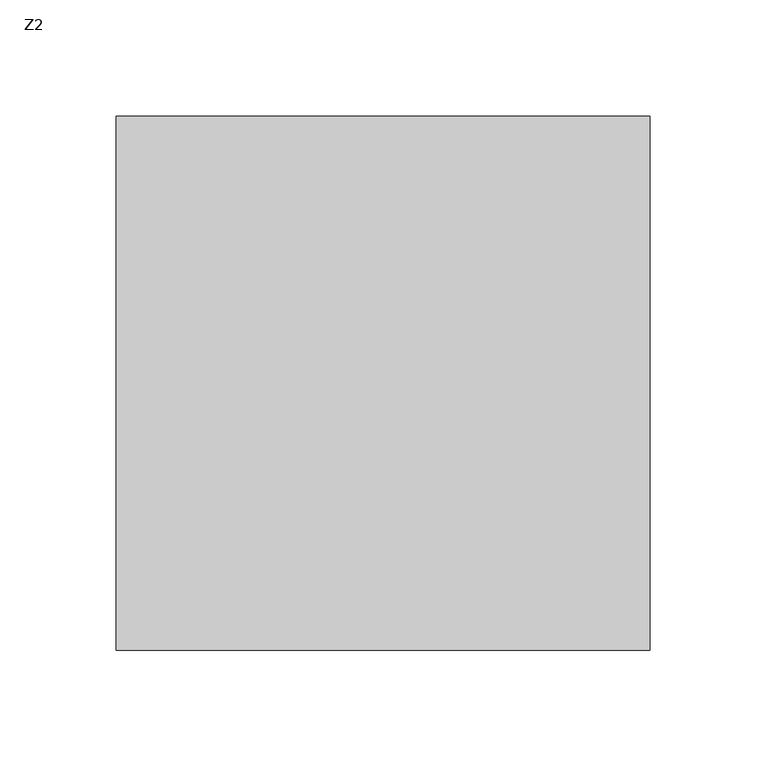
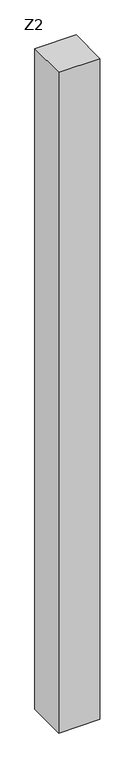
"""IFC4 building model written with IfcOpenShell, lengths in millimetres: column geometry, 混凝土 - 矩形 - 柱 : Z2."""

from ifc_helpers import new_model, si_unit, origin, origin_with_axes, place, context, project, spatial, polyline, outline, extrude, source, transform, mapped, element, save


def z2_c92565be(model_context):
    return source(origin(), model_context, "Body", "SweptSolid", [
        extrude(outline(polyline([(115.0, 115.0), (115.0, -115.0), (-115.0, -115.0), (-115.0, 115.0), (115.0, 115.0)])), origin_with_axes(), (0.0, 0.0, 1.0), 3900.0),
    ])


if __name__ == "__main__":
    model = new_model("IFC4")
    model_context = context("Model", 3, world=origin())
    ifc_project = project(units=[si_unit("LENGTHUNIT", "METRE", prefix="MILLI")], contexts=[model_context])
    site = spatial("IfcSite", under=ifc_project)
    building = spatial("IfcBuilding", under=site)
    placement = place(None, origin())
    z2_shape = z2_c92565be(model_context)
    element("IfcColumn", 1, ObjectType="混凝土 - 矩形 - 柱 : Z2", at=placement, inside=building, context=model_context, shape_type="MappedRepresentation", body=[
        mapped(z2_shape, transform((0.0, 0.0, 0.0), x_axis=(1.0, 0.0, 0.0), y_axis=(0.0, 1.0, 0.0), z_axis=(0.0, 0.0, 1.0))),
    ])
    save(model, "model.ifc")
